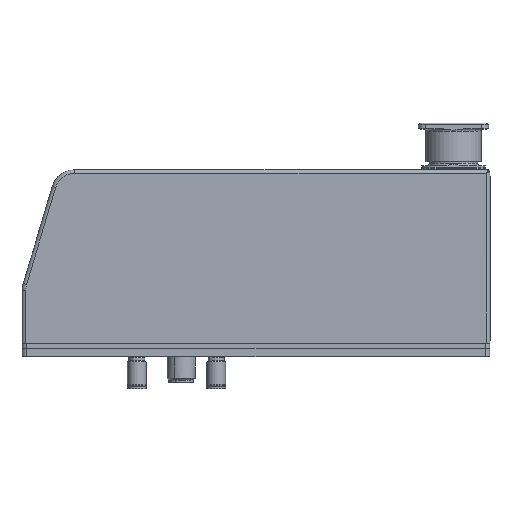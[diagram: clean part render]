
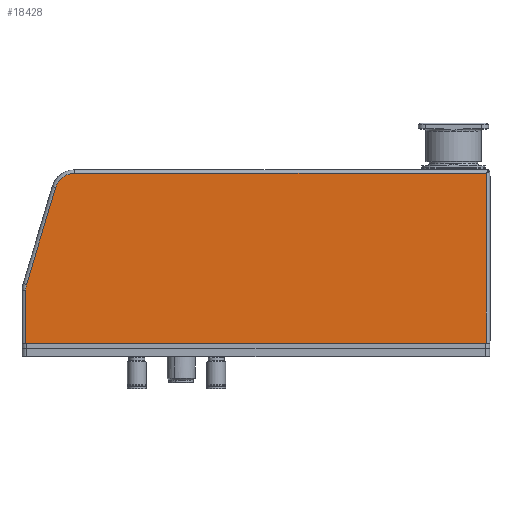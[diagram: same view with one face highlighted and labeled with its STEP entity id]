
A CAD part, top view. The second image highlights one B-rep face of the part: STEP entity #18428.
In plain terms, the highlighted planar face has unit normal (0, 0, 1).
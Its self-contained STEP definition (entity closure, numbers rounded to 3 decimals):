
#1710=DIRECTION('',(-1.,0.,0.));
#1711=VECTOR('',#1710,197.);
#1712=CARTESIAN_POINT('',(14.,5.85,12.5));
#1713=LINE('',#1712,#1711);
#1714=DIRECTION('',(0.,-1.,0.));
#1715=VECTOR('',#1714,22.682);
#1716=CARTESIAN_POINT('',(-183.,28.532,12.5));
#1717=LINE('',#1716,#1715);
#1718=CARTESIAN_POINT('',(-174.5,28.532,12.5));
#1719=DIRECTION('',(0.,0.,1.));
#1720=DIRECTION('',(-0.958,0.287,0.));
#1721=AXIS2_PLACEMENT_3D('',#1718,#1719,#1720);
#1723=DIRECTION('',(-0.287,-0.958,0.));
#1724=VECTOR('',#1723,43.294);
#1725=CARTESIAN_POINT('',(-170.201,72.442,12.5));
#1726=LINE('',#1725,#1724);
#1727=CARTESIAN_POINT('',(-162.06,70.,12.5));
#1728=DIRECTION('',(0.,0.,1.));
#1729=DIRECTION('',(0.,1.,0.));
#1730=AXIS2_PLACEMENT_3D('',#1727,#1728,#1729);
#1732=DIRECTION('',(-1.,0.,0.));
#1733=VECTOR('',#1732,176.06);
#1734=CARTESIAN_POINT('',(14.,78.5,12.5));
#1735=LINE('',#1734,#1733);
#1736=DIRECTION('',(0.,-1.,0.));
#1737=VECTOR('',#1736,72.65);
#1738=CARTESIAN_POINT('',(14.,78.5,12.5));
#1739=LINE('',#1738,#1737);
#1821=CARTESIAN_POINT('',(14.,78.5,12.5));
#13765=CARTESIAN_POINT('',(-182.642,30.975,12.5));
#13766=CARTESIAN_POINT('',(-183.,28.532,12.5));
#13767=VERTEX_POINT('',#13765);
#13768=VERTEX_POINT('',#13766);
#13773=CARTESIAN_POINT('',(-170.201,72.442,12.5));
#13774=VERTEX_POINT('',#13773);
#13777=CARTESIAN_POINT('',(-162.06,78.5,12.5));
#13778=VERTEX_POINT('',#13777);
#13810=CARTESIAN_POINT('',(14.,5.85,12.5));
#13812=VERTEX_POINT('',#13810);
#13813=CARTESIAN_POINT('',(-183.,5.85,
12.5));
#13814=VERTEX_POINT('',#13813);
#13832=VERTEX_POINT('',#1821);
#18411=CARTESIAN_POINT('',(-184.5,5.5,12.5));
#18412=DIRECTION('',(0.,0.,1.));
#18413=DIRECTION('',(1.,0.,0.));
#18414=AXIS2_PLACEMENT_3D('',#18411,#18412,#18413);
#18415=PLANE('',#18414);
#18416=ORIENTED_EDGE('',*,*,#18249,.T.);
#18417=ORIENTED_EDGE('',*,*,#18346,.F.);
#18418=ORIENTED_EDGE('',*,*,#18402,.F.);
#18420=ORIENTED_EDGE('',*,*,#18419,.F.);
#18422=ORIENTED_EDGE('',*,*,#18421,.F.);
#18424=ORIENTED_EDGE('',*,*,#18423,.F.);
#18425=ORIENTED_EDGE('',*,*,#18213,.T.);
#18426=EDGE_LOOP('',(#18416,#18417,#18418,#18420,#18422,#18424,#18425));
#18427=FACE_OUTER_BOUND('',#18426,.F.);
#18428=ADVANCED_FACE('',(#18427),#18415,.T.);
#1722=CIRCLE('',#1721,8.5);
#1731=CIRCLE('',#1730,8.5);
#18213=EDGE_CURVE('',#13832,#13812,#1739,.T.);
#18249=EDGE_CURVE('',#13812,#13814,#1713,.T.);
#18346=EDGE_CURVE('',#13768,#13814,#1717,.T.);
#18402=EDGE_CURVE('',#13767,#13768,#1722,.T.);
#18419=EDGE_CURVE('',#13774,#13767,#1726,.T.);
#18421=EDGE_CURVE('',#13778,#13774,#1731,.T.);
#18423=EDGE_CURVE('',#13832,#13778,#1735,.T.);
